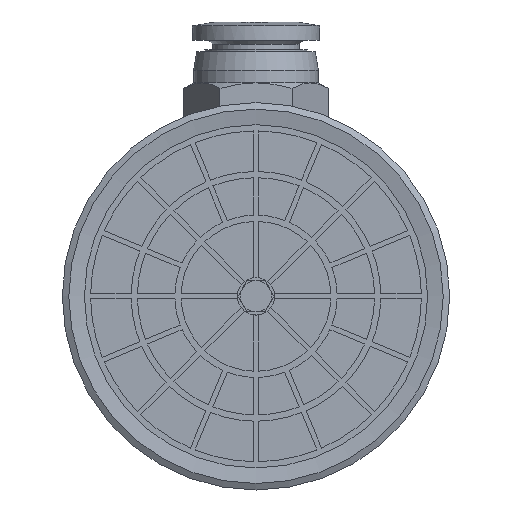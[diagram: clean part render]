
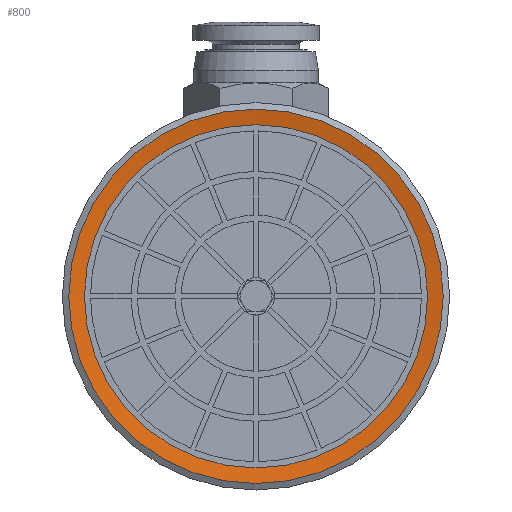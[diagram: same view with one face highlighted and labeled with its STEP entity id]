
A CAD part, front view. The second image highlights one B-rep face of the part: STEP entity #800.
In plain terms, the highlighted conical face has half-angle 80 degrees and reference radius 15 mm.
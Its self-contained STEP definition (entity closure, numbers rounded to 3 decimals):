
#800=ADVANCED_FACE('',(#1588,#1589),#1590,.F.);
#1588=FACE_BOUND('',#2705,.T.);
#1589=FACE_OUTER_BOUND('',#2706,.T.);
#1590=CONICAL_SURFACE('',#2707,15.0,1.396);
#2705=EDGE_LOOP('',(#5050));
#2706=EDGE_LOOP('',(#5051));
#2707=AXIS2_PLACEMENT_3D('',#5052,#5053,#5054);
#5050=ORIENTED_EDGE('',*,*,#6424,.T.);
#5051=ORIENTED_EDGE('',*,*,#6518,.F.);
#5052=CARTESIAN_POINT('',(0.0,0.,0.));
#5053=DIRECTION('',(0.0,0.,-1.0));
#5054=DIRECTION('',(0.0,1.0,0.));
#6424=EDGE_CURVE('',#7760,#7760,#7761,.T.);
#6518=EDGE_CURVE('',#7898,#7898,#7899,.T.);
#7760=VERTEX_POINT('',#10201);
#7761=CIRCLE('',#10202,13.75);
#7898=VERTEX_POINT('',#10405);
#7899=CIRCLE('',#10406,15.0);
#10201=CARTESIAN_POINT('',(0.0,-13.75,0.22));
#10202=AXIS2_PLACEMENT_3D('',#11646,#11647,#11648);
#10405=CARTESIAN_POINT('',(0.0,-15.0,0.));
#10406=AXIS2_PLACEMENT_3D('',#11796,#11797,#11798);
#11646=CARTESIAN_POINT('',(0.0,0.,0.22));
#11647=DIRECTION('',(0.0,0.,1.0));
#11648=DIRECTION('',(0.0,-1.0,0.));
#11796=CARTESIAN_POINT('',(0.0,0.,0.));
#11797=DIRECTION('',(0.0,0.,1.0));
#11798=DIRECTION('',(0.0,-1.0,0.));
